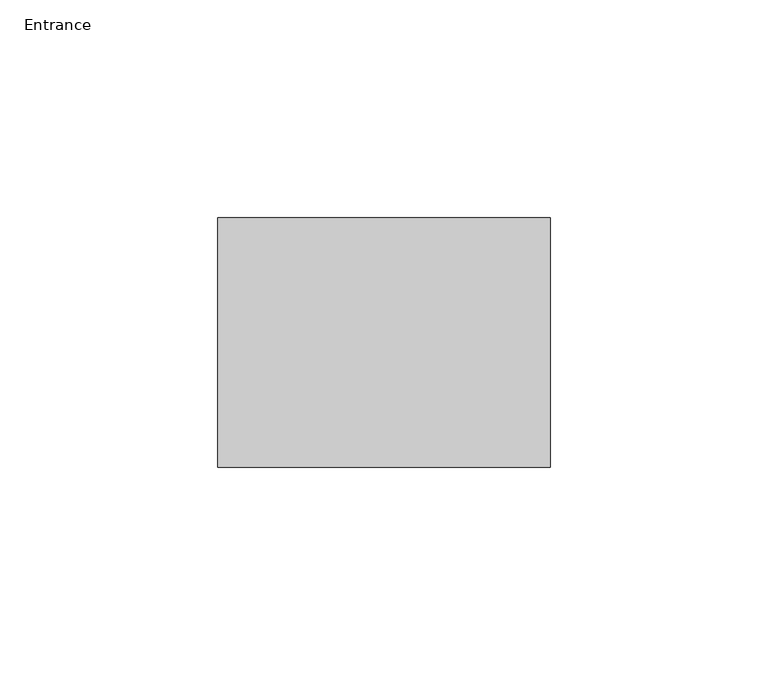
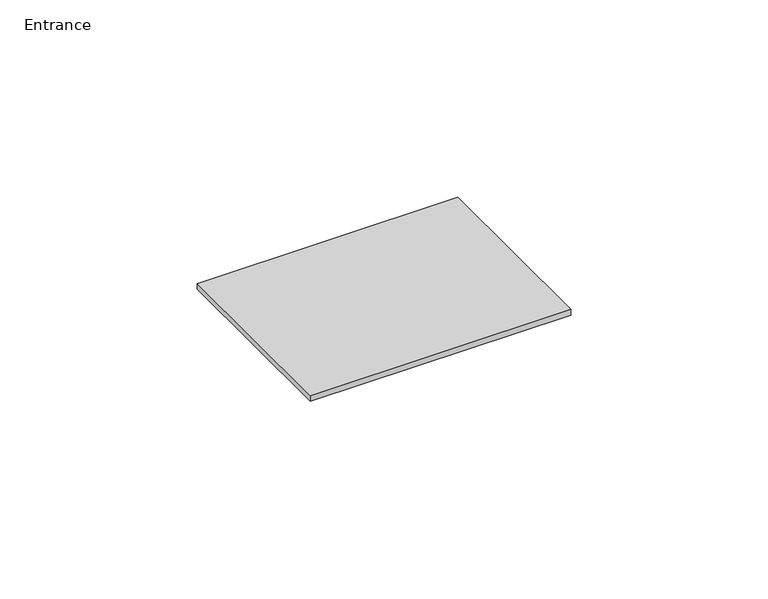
"""IFC4 building model written with IfcOpenShell, lengths in millimetres: proxy geometry, End_Cap-ALA3800_Series-Wiremold : Entrance."""

from ifc_helpers import new_model, si_unit, origin, origin_with_axes, place, context, project, spatial, polyline, outline, extrude, source, transform, mapped, element, save


def entrance_aea895b1(model_context):
    return source(origin(), model_context, "Body", "SweptSolid", [
        extrude(outline(polyline([(38.1, 28.575), (38.1, -28.575), (-38.1, -28.575), (-38.1, 28.575), (38.1, 28.575)])), origin_with_axes(), (0.0, 0.0, 1.0), 1.778),
    ])


if __name__ == "__main__":
    model = new_model("IFC4")
    model_context = context("Model", 3, world=origin())
    ifc_project = project(units=[si_unit("LENGTHUNIT", "METRE", prefix="MILLI")], contexts=[model_context])
    site = spatial("IfcSite", under=ifc_project)
    building = spatial("IfcBuilding", under=site)
    placement = place(None, origin())
    entrance_shape = entrance_aea895b1(model_context)
    element("IfcBuildingElementProxy", 1, Name="End_Cap-ALA3800_Series-Wiremold : Entrance", ObjectType="End_Cap-ALA3800_Series-Wiremold : Entrance", at=placement, inside=building, context=model_context, shape_type="MappedRepresentation", body=[
        mapped(entrance_shape, transform((0.0, 0.0, 0.0), x_axis=(1.0, 0.0, 0.0), y_axis=(0.0, 1.0, 0.0), z_axis=(0.0, 0.0, 1.0))),
    ])
    save(model, "model.ifc")
